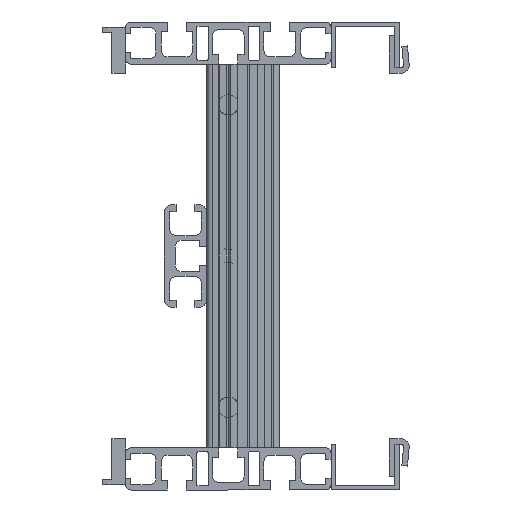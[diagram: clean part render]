
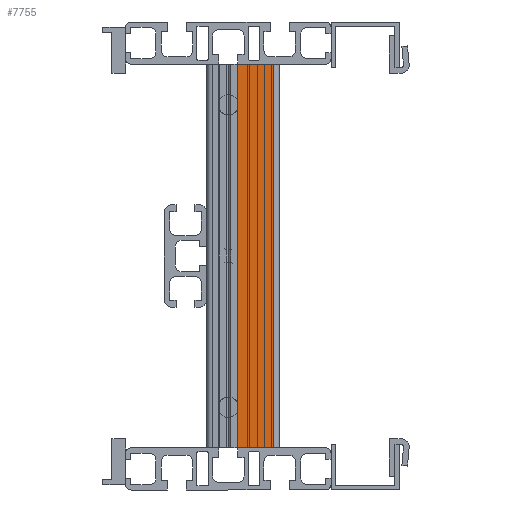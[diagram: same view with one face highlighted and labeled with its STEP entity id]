
A CAD part, left-side view. The second image highlights one B-rep face of the part: STEP entity #7755.
In plain terms, the highlighted planar face has unit normal (-1, 0, 0).
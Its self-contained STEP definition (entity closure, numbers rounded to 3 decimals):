
#235 = ORIENTED_EDGE ( 'NONE', *, *, #14830, .T. ) ;
#451 = ORIENTED_EDGE ( 'NONE', *, *, #14834, .T. ) ;
#642 = ORIENTED_EDGE ( 'NONE', *, *, #14828, .F. ) ;
#860 = ORIENTED_EDGE ( 'NONE', *, *, #14829, .F. ) ;
#2885 = AXIS2_PLACEMENT_3D ( 'NONE', #21359, #21349, #21348 ) ;
#4485 = LINE ( 'NONE', #14717, #4494 ) ;
#4493 = LINE ( 'NONE', #14748, #4496 ) ;
#4494 = VECTOR ( 'NONE', #14745, 1000. ) ;
#4495 = LINE ( 'NONE', #14752, #4498 ) ;
#4496 = VECTOR ( 'NONE', #14750, 1000. ) ;
#4498 = VECTOR ( 'NONE', #14756, 1000. ) ;
#4499 = LINE ( 'NONE', #14754, #4501 ) ;
#4501 = VECTOR ( 'NONE', #14741, 1000. ) ;
#6768 = CARTESIAN_POINT ( 'NONE',  ( -500., -49.15, 84. ) ) ;
#6772 = CARTESIAN_POINT ( 'NONE',  ( -500., -49.15, -84. ) ) ;
#6777 = CARTESIAN_POINT ( 'NONE',  ( -500., -65., -84. ) ) ;
#6781 = CARTESIAN_POINT ( 'NONE',  ( -500., -65., 84. ) ) ;
#7755 = ADVANCED_FACE ( 'NONE', ( #19492 ), #21352, .F. ) ;
#9732 = VERTEX_POINT ( 'NONE', #6768 ) ;
#9736 = VERTEX_POINT ( 'NONE', #6772 ) ;
#9741 = VERTEX_POINT ( 'NONE', #6777 ) ;
#9745 = VERTEX_POINT ( 'NONE', #6781 ) ;
#11974 = EDGE_LOOP ( 'NONE', ( #235, #860, #642, #451 ) ) ;
#14717 = CARTESIAN_POINT ( 'NONE',  ( -500., -65., -84. ) ) ;
#14741 = DIRECTION ( 'NONE',  ( 0., 0., 1. ) ) ;
#14745 = DIRECTION ( 'NONE',  ( 0., 1., 0. ) ) ;
#14748 = CARTESIAN_POINT ( 'NONE',  ( -500., -49.15, -84. ) ) ;
#14750 = DIRECTION ( 'NONE',  ( 0., 0., 1. ) ) ;
#14752 = CARTESIAN_POINT ( 'NONE',  ( -500., -65., 84. ) ) ;
#14754 = CARTESIAN_POINT ( 'NONE',  ( -500., -65., -84. ) ) ;
#14756 = DIRECTION ( 'NONE',  ( 0., 1., 0. ) ) ;
#14828 = EDGE_CURVE ( 'NONE', #9741, #9736, #4485, .T. ) ;
#14829 = EDGE_CURVE ( 'NONE', #9736, #9732, #4493, .T. ) ;
#14830 = EDGE_CURVE ( 'NONE', #9745, #9732, #4495, .T. ) ;
#14834 = EDGE_CURVE ( 'NONE', #9741, #9745, #4499, .T. ) ;
#19492 = FACE_OUTER_BOUND ( 'NONE', #11974, .T. ) ;
#21348 = DIRECTION ( 'NONE',  ( 0., 0., -1. ) ) ;
#21349 = DIRECTION ( 'NONE',  ( 1., 0., 0. ) ) ;
#21352 = PLANE ( 'NONE',  #2885 ) ;
#21359 = CARTESIAN_POINT ( 'NONE',  ( -500., -65., -84. ) ) ;
